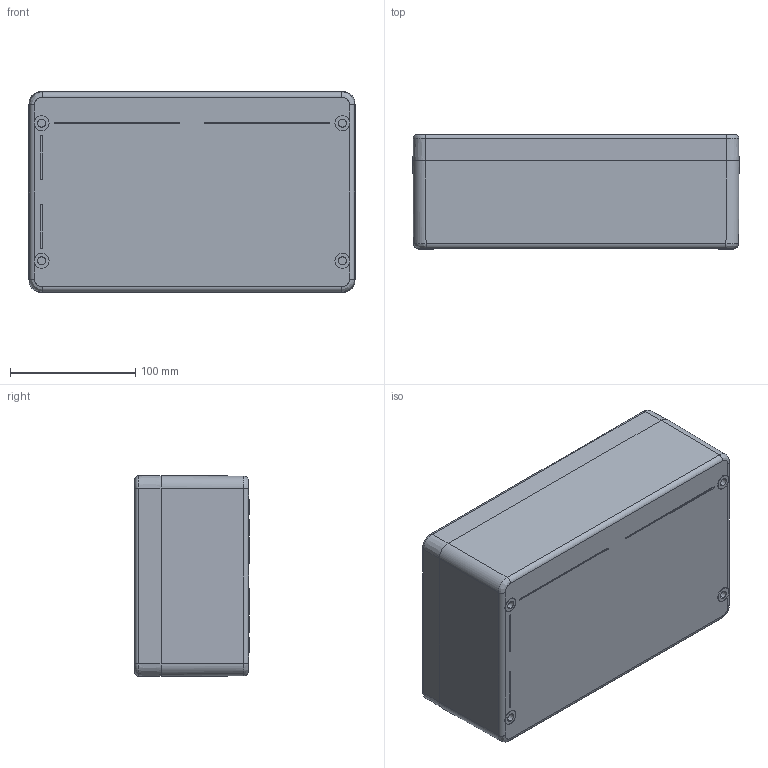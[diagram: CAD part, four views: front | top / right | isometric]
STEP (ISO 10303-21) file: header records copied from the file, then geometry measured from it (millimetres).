
FILE_DESCRIPTION((''),'2;1');
FILE_NAME('4300950000_ASM','2023-06-29T10:24:32',('Stephanie.Hoppe'),(''),'CREO PARAMETRIC BY PTC INC, 2022124','CREO PARAMETRIC BY PTC INC, 2022124','');
FILE_SCHEMA(('AUTOMOTIVE_DESIGN { 1 0 10303 214 1 1 1 1 }'));
Length unit declared in the file: millimetre
Products named in the file (10): 9331046000; 9502218000; 9502217000; 9331046000_ASM; 9332046000; 9614006700_DICHTUNG; 9614006700_ASM; 9262006000; 9261022000; 4300950000_ASM
Assembly tree (23 placements, depth 3):
  4300950000_ASM
    9331046000_ASM
      9331046000
      9502218000  x6
      9502217000  x4
    9614006700_ASM
      9332046000
      9614006700_DICHTUNG
    9262006000  x4
    9261022000  x4
Bounding box: 260.5 x 91.5 x 160.5 mm (x, y, z)
Volume: 995512.8 mm3; surface area: 349821.1 mm2
Topology: 21 solids, 35 shells, 2274 faces, 6171 edges, 3986 vertices
Faces by surface type: plane 1612, cone 428, cylinder 172, torus 36, bspline 26
Entity records: 40731 total; most frequent: CARTESIAN_POINT 7293, DIRECTION 4583, ORIENTED_EDGE 4040, PRESENTATION_STYLE_ASSIGNMENT 2516, STYLED_ITEM 2513, CURVE_STYLE 2338, EDGE_CURVE 2026, AXIS2_PLACEMENT_3D 1662
